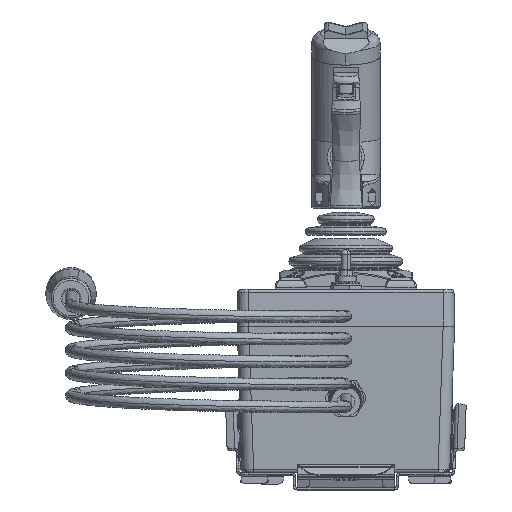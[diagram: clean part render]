
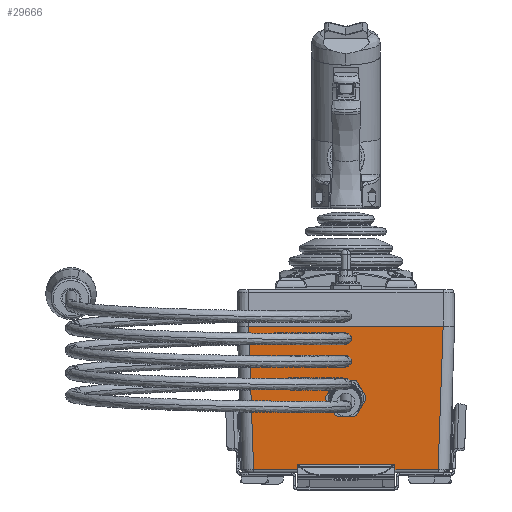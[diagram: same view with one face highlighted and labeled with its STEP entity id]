
A CAD part, top view. The second image highlights one B-rep face of the part: STEP entity #29666.
In plain terms, the highlighted planar face has unit normal (0, -0.035, 0.999).
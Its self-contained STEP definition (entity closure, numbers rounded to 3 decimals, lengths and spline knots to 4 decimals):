
#5775 = CARTESIAN_POINT ( 'NONE',  ( 2.375, 4.0712, -1.6268 ) ) ;
#5786 = PLANE ( 'NONE',  #45266 ) ;
#5793 = DIRECTION ( 'NONE',  ( 0., -0.035, 0.999 ) ) ;
#5795 = DIRECTION ( 'NONE',  ( 0., 0.999, 0.035 ) ) ;
#6316 = CARTESIAN_POINT ( 'NONE',  ( 2.1252, 4.0712, -1.6268 ) ) ;
#6392 = CARTESIAN_POINT ( 'NONE',  ( 0., 2.8661, -1.6689 ) ) ;
#6402 = CARTESIAN_POINT ( 'NONE',  ( -2.1252, 4.0712, -1.6268 ) ) ;
#6684 = CARTESIAN_POINT ( 'NONE',  ( -2.0155, 0.9315, -1.7365 ) ) ;
#6709 = CARTESIAN_POINT ( 'NONE',  ( 2.0155, 0.9315, -1.7365 ) ) ;
#6740 = CARTESIAN_POINT ( 'NONE',  ( 0., 2.1366, -1.6944 ) ) ;
#7658 = AXIS2_PLACEMENT_3D ( 'NONE', #28126, #28128, #28130 ) ;
#7667 = AXIS2_PLACEMENT_3D ( 'NONE', #28135, #28137, #28139 ) ;
#9642 = EDGE_LOOP ( 'NONE', ( #13239, #13240, #13241, #13242 ) ) ;
#9645 = EDGE_LOOP ( 'NONE', ( #13237, #13238 ) ) ;
#10592 = EDGE_CURVE ( 'NONE', #12043, #12058, #36799, .T. ) ;
#10630 = EDGE_CURVE ( 'NONE', #11867, #12043, #36900, .T. ) ;
#10632 = EDGE_CURVE ( 'NONE', #11866, #12088, #36894, .T. ) ;
#10633 = EDGE_CURVE ( 'NONE', #12088, #11866, #36908, .T. ) ;
#10634 = EDGE_CURVE ( 'NONE', #12058, #11819, #36904, .T. ) ;
#10635 = EDGE_CURVE ( 'NONE', #11819, #11867, #36914, .T. ) ;
#11819 = VERTEX_POINT ( 'NONE', #6316 ) ;
#11866 = VERTEX_POINT ( 'NONE', #6392 ) ;
#11867 = VERTEX_POINT ( 'NONE', #6402 ) ;
#12043 = VERTEX_POINT ( 'NONE', #6684 ) ;
#12058 = VERTEX_POINT ( 'NONE', #6709 ) ;
#12088 = VERTEX_POINT ( 'NONE', #6740 ) ;
#13237 = ORIENTED_EDGE ( 'NONE', *, *, #10632, .F. ) ;
#13238 = ORIENTED_EDGE ( 'NONE', *, *, #10633, .F. ) ;
#13239 = ORIENTED_EDGE ( 'NONE', *, *, #10630, .T. ) ;
#13240 = ORIENTED_EDGE ( 'NONE', *, *, #10592, .T. ) ;
#13241 = ORIENTED_EDGE ( 'NONE', *, *, #10634, .T. ) ;
#13242 = ORIENTED_EDGE ( 'NONE', *, *, #10635, .T. ) ;
#27823 = DIRECTION ( 'NONE',  ( 1., 0., 0. ) ) ;
#27830 = CARTESIAN_POINT ( 'NONE',  ( 2.0134, 0.9315, -1.7365 ) ) ;
#28107 = CARTESIAN_POINT ( 'NONE',  ( -2.1197, 3.9144, -1.6323 ) ) ;
#28110 = DIRECTION ( 'NONE',  ( 0.035, -0.999, -0.035 ) ) ;
#28121 = DIRECTION ( 'NONE',  ( 0.035, 0.999, 0.035 ) ) ;
#28123 = CARTESIAN_POINT ( 'NONE',  ( 2.1255, 4.0799, -1.6265 ) ) ;
#28126 = CARTESIAN_POINT ( 'NONE',  ( 0., 2.5013, -1.6816 ) ) ;
#28128 = DIRECTION ( 'NONE',  ( 0., -0.035, 0.999 ) ) ;
#28130 = DIRECTION ( 'NONE',  ( 0., 0.999, 0.035 ) ) ;
#28135 = CARTESIAN_POINT ( 'NONE',  ( 0., 2.5013, -1.6816 ) ) ;
#28137 = DIRECTION ( 'NONE',  ( 0., -0.035, 0.999 ) ) ;
#28139 = DIRECTION ( 'NONE',  ( 0., 0.999, 0.035 ) ) ;
#28142 = CARTESIAN_POINT ( 'NONE',  ( 2.375, 4.0712, -1.6268 ) ) ;
#28144 = DIRECTION ( 'NONE',  ( -1., 0., 0. ) ) ;
#29666 = ADVANCED_FACE ( 'NONE', ( #42219, #42213 ), #5786, .T. ) ;
#36799 = LINE ( 'NONE', #27830, #36807 ) ;
#36807 = VECTOR ( 'NONE', #27823, 39.3701 ) ;
#36894 = CIRCLE ( 'NONE', #7658, 0.365 ) ;
#36900 = LINE ( 'NONE', #28107, #36906 ) ;
#36904 = LINE ( 'NONE', #28123, #36916 ) ;
#36906 = VECTOR ( 'NONE', #28110, 39.3701 ) ;
#36908 = CIRCLE ( 'NONE', #7667, 0.365 ) ;
#36914 = LINE ( 'NONE', #28142, #36920 ) ;
#36916 = VECTOR ( 'NONE', #28121, 39.3701 ) ;
#36920 = VECTOR ( 'NONE', #28144, 39.3701 ) ;
#42213 = FACE_OUTER_BOUND ( 'NONE', #9642, .T. ) ;
#42219 = FACE_BOUND ( 'NONE', #9645, .T. ) ;
#45266 = AXIS2_PLACEMENT_3D ( 'NONE', #5775, #5793, #5795 ) ;
